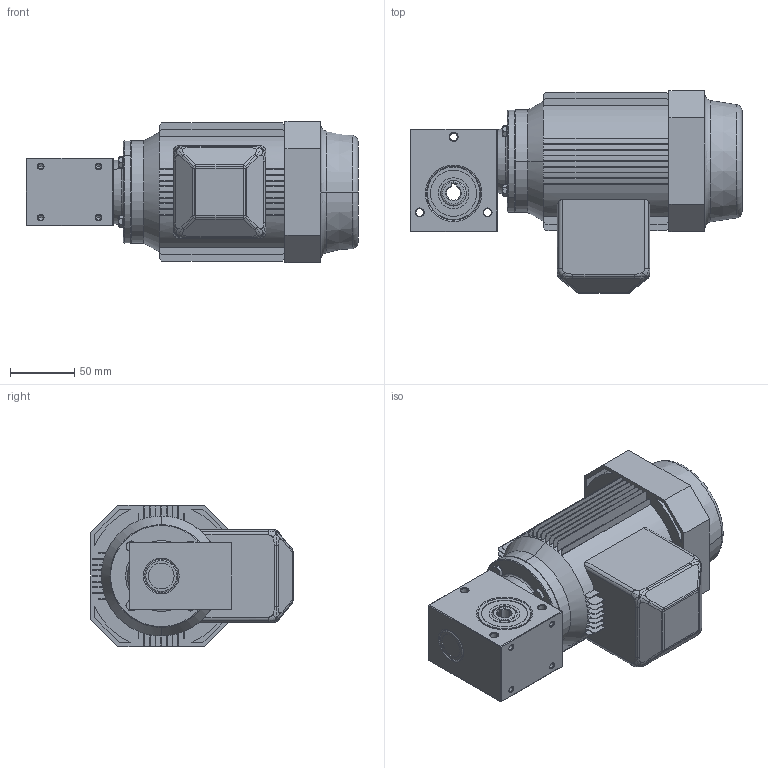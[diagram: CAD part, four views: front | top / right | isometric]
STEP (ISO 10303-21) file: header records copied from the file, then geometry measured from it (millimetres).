
FILE_DESCRIPTION((''),'2;1');
FILE_NAME('D:\_Assiemi MV\_File Sito\25\STP\MV25_B14-56.stp','2005-07-25T17:59:02',('tech2'),(''),'Autodesk Inventor 9','Autodesk Inventor 9','');
FILE_SCHEMA(('AUTOMOTIVE_DESIGN { 1 0 10303 214 1 1 1 1 }'));
Length unit declared in the file: millimetre
Products named in the file (10): MV25_B14-56; MV25_Prim; 0300201.A0; 0300205.A0; 0300208.A0; Capp-26-6; Paraolio-20-42-7; DIN 3760  A  (sinistra) A - 20 x 30 x 7 - NBR; UNI 5739  (Filetto regolare) M5 x 16; motori B14 56
Assembly tree (12 placements, depth 3):
  MV25_B14-56
    MV25_Prim
      0300201.A0
      0300205.A0
      0300208.A0
      Capp-26-6
      Paraolio-20-42-7
      DIN 3760  A  (sinistra) A - 20 x 30 x 7 - NBR
      UNI 5739  (Filetto regolare) M5 x 16  x4
    motori B14 56
Bounding box: 259 x 158 x 110 mm (x, y, z)
Volume: 1896408 mm3; surface area: 207218.7 mm2
Topology: 11 solids, 11 shells, 797 faces, 2029 edges, 1274 vertices
Faces by surface type: plane 377, cylinder 153, bspline 131, cone 110, torus 22, sphere 4
Entity records: 27815 total; most frequent: CARTESIAN_POINT 9991, ORIENTED_EDGE 3698, DIRECTION 3675, EDGE_CURVE 1849, AXIS2_PLACEMENT_3D 1304, VERTEX_POINT 1184, VECTOR 1067, LINE 1067
